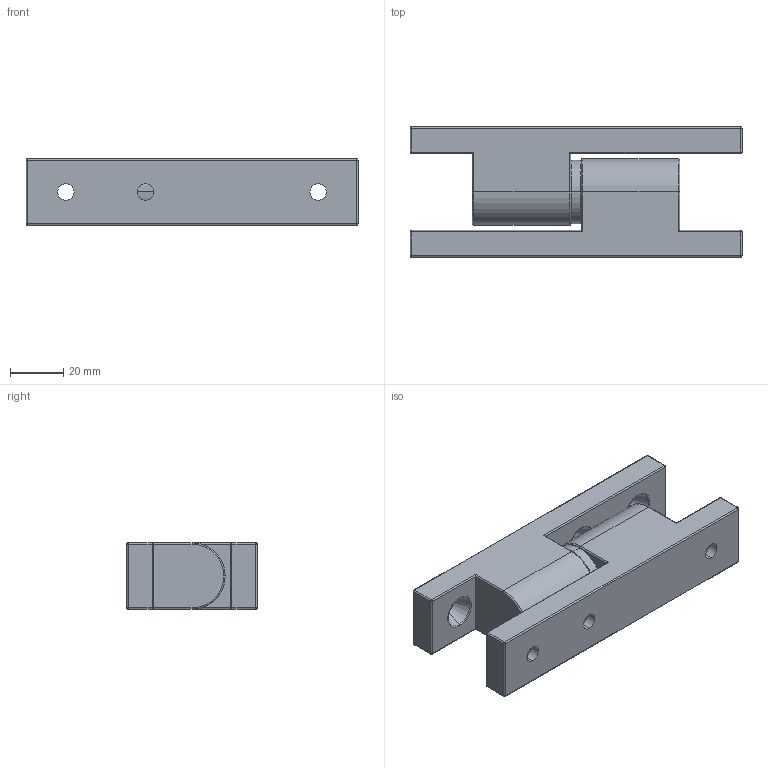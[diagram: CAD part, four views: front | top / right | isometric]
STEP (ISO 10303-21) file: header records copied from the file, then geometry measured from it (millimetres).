
FILE_DESCRIPTION (( 'STEP AP203' ), '1' );
FILE_NAME ('XG02-032-2.STEP', '2023-12-07T06:56:43', ( '' ), ( '' ), 'SwSTEP 2.0', 'SolidWorks 2020', '' );
FILE_SCHEMA (( 'CONFIG_CONTROL_DESIGN' ));
Length unit declared in the file: millimetre
Products named in the file (4): 錨璃3; 錨璃4; 錨璃1; XG02-032-2
Assembly tree (4 placements, depth 2):
  XG02-032-2
    錨璃1  x2
    錨璃3
    錨璃4
Bounding box: 125 x 49 x 25 mm (x, y, z)
Volume: 105989.3 mm3; surface area: 29103.6 mm2
Topology: 4 solids, 4 shells, 150 faces, 332 edges, 176 vertices
Faces by surface type: cylinder 62, torus 32, plane 24, cone 16, sphere 16
Entity records: 2731 total; most frequent: DIRECTION 471, CARTESIAN_POINT 384, ORIENTED_EDGE 358, AXIS2_PLACEMENT_3D 203, EDGE_CURVE 179, CIRCLE 110, VERTEX_POINT 100, EDGE_LOOP 95
